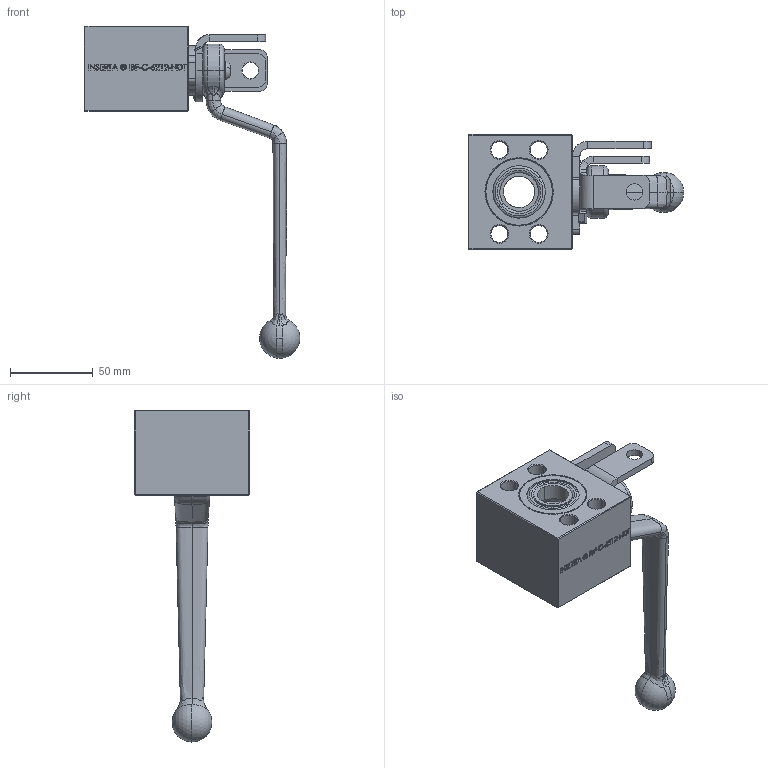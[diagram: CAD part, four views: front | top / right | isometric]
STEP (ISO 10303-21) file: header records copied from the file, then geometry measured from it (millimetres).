
FILE_DESCRIPTION (( 'STEP AP214' ), '1' );
FILE_NAME ('IBF-C-6212-N-D-T-Open.STEP', '2026-02-16T14:43:33', ( '' ), ( '' ), 'SwSTEP 2.0', 'SolidWorks 2025', '' );
FILE_SCHEMA (( 'AUTOMOTIVE_DESIGN' ));
Products named in the file (1): IBF-C-6212-N-D-T-Open
Bounding box: 130.64 x 69.85 x 201.07 mm (x, y, z)
Volume: 247608.5 mm3; surface area: 72480.4 mm2
Topology: 2 solids, 4 shells, 1005 faces, 2716 edges, 1761 vertices
Faces by surface type: plane 483, bspline 197, cylinder 166, cone 67, torus 62, sphere 30
Entity records: 57232 total; most frequent: CARTESIAN_POINT 33792, ORIENTED_EDGE 5410, DIRECTION 4047, EDGE_CURVE 2705, VERTEX_POINT 1758, AXIS2_PLACEMENT_3D 1382, LINE 1283, VECTOR 1283
